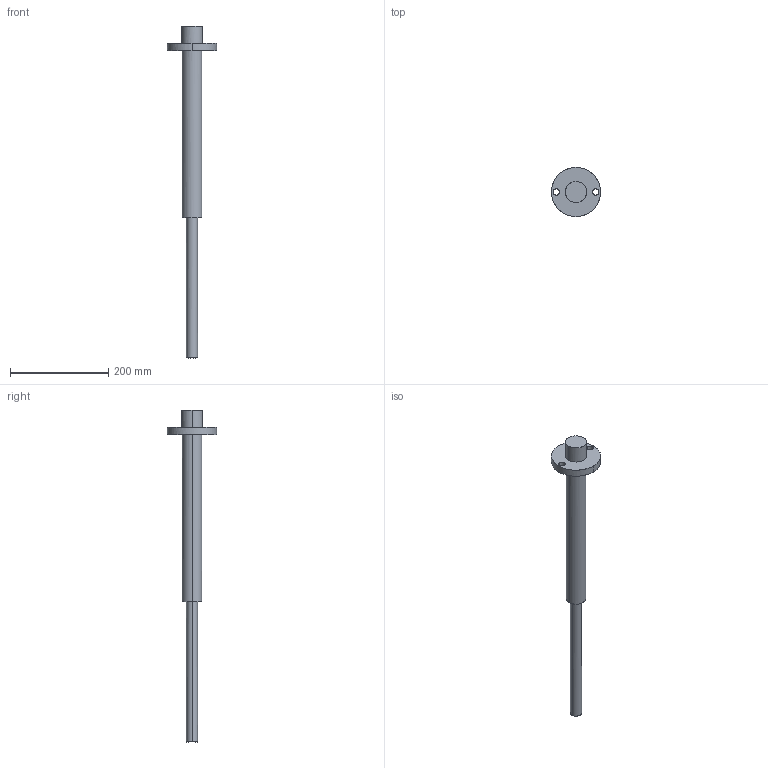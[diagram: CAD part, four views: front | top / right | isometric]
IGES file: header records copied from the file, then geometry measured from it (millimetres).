
Global section: file name: E:\UnigraphicsGraphicData\MISUMI_PRESS-PARTS\IGES\3d_papu270-340_01698_r00.igs; native system: NX V5.0; preprocessor: UGS NX IGES V5.0; author: MISUMI; date: 20110105.162226; units: millimetre
Bounding box: 100 x 100 x 675 mm (x, y, z)
Surface area: 93600.7 mm2 (no closed solid volume)
Topology: 0 solids, 0 shells, 21 faces, 232 edges, 232 vertices
Faces by surface type: bspline 21
